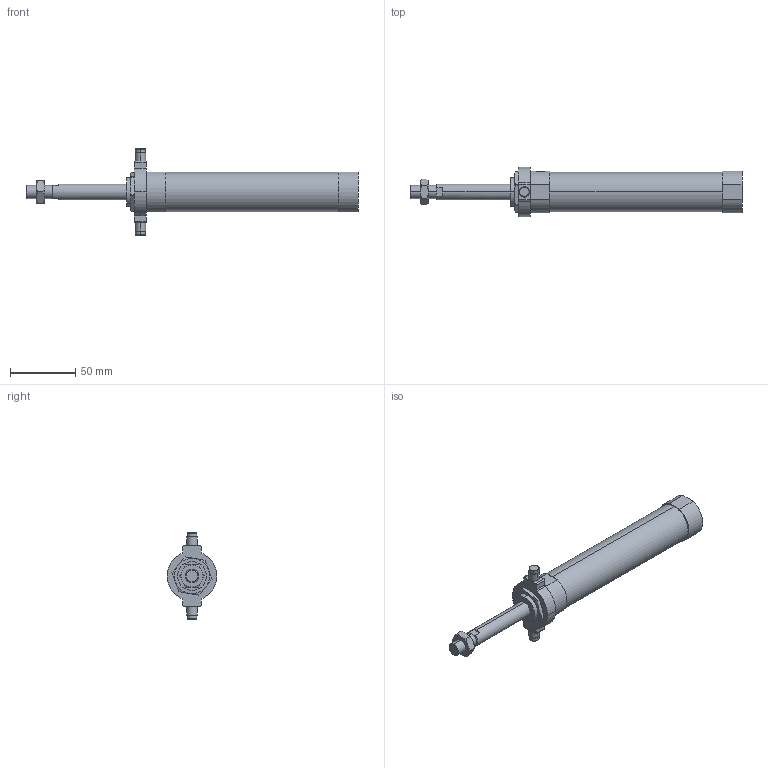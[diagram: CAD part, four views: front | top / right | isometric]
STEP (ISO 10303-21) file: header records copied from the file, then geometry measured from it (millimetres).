
FILE_DESCRIPTION (( 'STEP AP203' ), '1' );
FILE_NAME ('JGND0-25-50-T.STEP', '2016-08-04T02:12:01', ( '' ), ( '' ), 'SwSTEP 2.0', 'SolidWorks 2014', '' );
FILE_SCHEMA (( 'CONFIG_CONTROL_DESIGN' ));
Length unit declared in the file: millimetre
Products named in the file (5): JGND0-25-50-T; J#2-25-T; J#0-25-50(P)
Assembly tree (4 placements, depth 2):
  JGND0-25-50-T
    J#0-25-50(P)
    (unnamed)
    J#2-25-T
    (unnamed)
Bounding box: 254 x 38 x 66 mm (x, y, z)
Volume: 140036.7 mm3; surface area: 27626.9 mm2
Topology: 4 solids, 4 shells, 124 faces, 281 edges, 169 vertices
Faces by surface type: plane 45, cylinder 41, torus 24, cone 14
Entity records: 4216 total; most frequent: CARTESIAN_POINT 937, DIRECTION 603, ORIENTED_EDGE 558, EDGE_CURVE 279, AXIS2_PLACEMENT_3D 247, VERTEX_POINT 169, EDGE_LOOP 136, FACE_OUTER_BOUND 124
